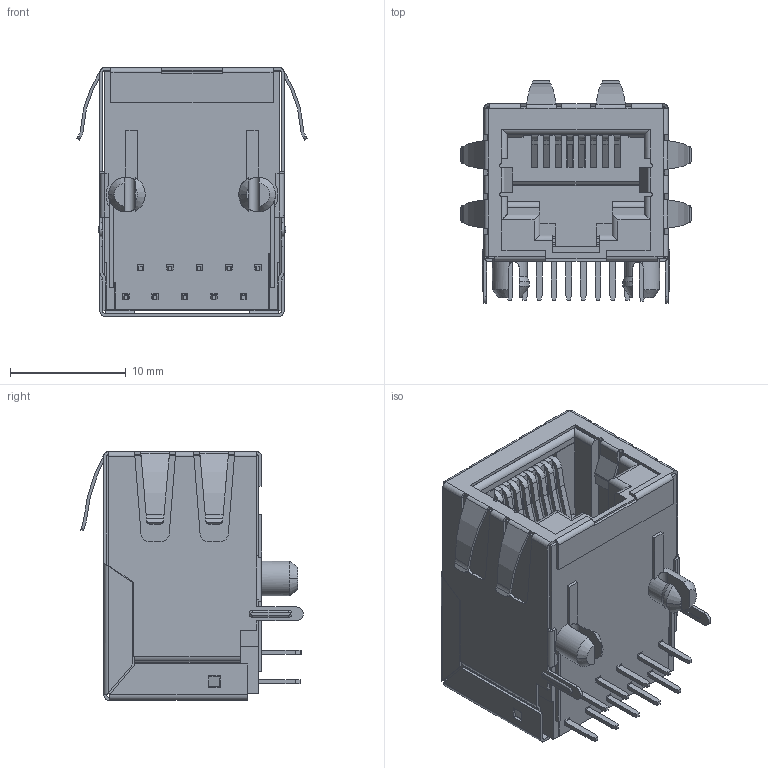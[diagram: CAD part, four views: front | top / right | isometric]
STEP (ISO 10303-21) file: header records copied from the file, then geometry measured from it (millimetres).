
FILE_DESCRIPTION (( 'STEP AP214' ), '1' );
FILE_NAME ('CUI_DEVICES_CRJ008-MG-TH.step', '2023-02-08T16:19:17', ( '' ), ( '' ), 'SwSTEP 2.0', 'SolidWorks 2022', '' );
FILE_SCHEMA (( 'AUTOMOTIVE_DESIGN' ));
Length unit declared in the file: inch
Products named in the file (1): CUI_DEVICES_CRJ008-MG-TH
Bounding box: 19.9 x 19.23 x 21.5 mm (x, y, z)
Volume: 2602 mm3; surface area: 6204.1 mm2
Topology: 1 solids, 3 shells, 1426 faces, 4209 edges, 2694 vertices
Faces by surface type: plane 1085, cylinder 319, torus 13, cone 8, bspline 1
Entity records: 66154 total; most frequent: CARTESIAN_POINT 9298, ORIENTED_EDGE 8418, DIRECTION 7491, EDGE_CURVE 4209, VECTOR 3403, LINE 3403, VERTEX_POINT 2694, AXIS2_PLACEMENT_3D 2044
